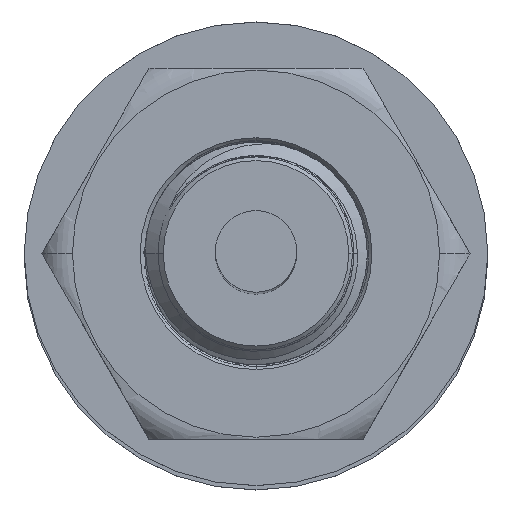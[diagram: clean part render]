
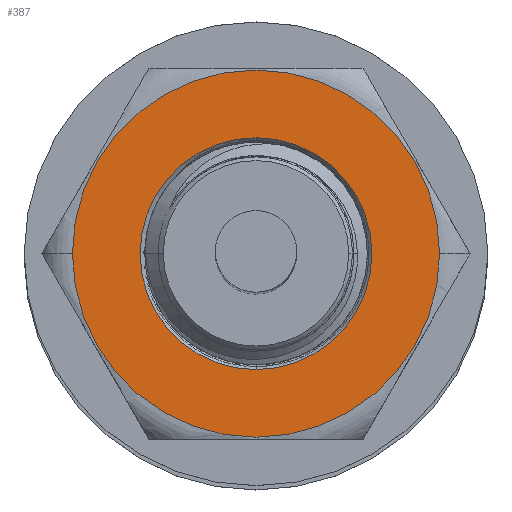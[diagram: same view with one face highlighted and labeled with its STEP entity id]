
A CAD part, top view. The second image highlights one B-rep face of the part: STEP entity #387.
In plain terms, the highlighted planar face has unit normal (0, 0, 1) as drawn and (0, 1, 0) by its records, which use the part's own axes.
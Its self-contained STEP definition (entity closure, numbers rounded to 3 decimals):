
#386 = DIRECTION ( 'NONE',  ( 1., 0., 0. ) ) ;
#387 = ADVANCED_FACE ( 'NONE', ( #5906, #15443 ), #7969, .T. ) ;
#1014 = ORIENTED_EDGE ( 'NONE', *, *, #2346, .F. ) ;
#1169 = DIRECTION ( 'NONE',  ( 0., 0., 1. ) ) ;
#1225 = CIRCLE ( 'NONE', #13662, 3.125 ) ;
#2173 = DIRECTION ( 'NONE',  ( 0., 0., 1. ) ) ;
#2346 = EDGE_CURVE ( 'NONE', #6282, #6960, #15671, .T. ) ;
#2758 = VERTEX_POINT ( 'NONE', #9671 ) ;
#2976 = AXIS2_PLACEMENT_3D ( 'NONE', #6274, #11128, #386 ) ;
#3330 = CARTESIAN_POINT ( 'NONE',  ( 0., 2.5, 0. ) ) ;
#3431 = CARTESIAN_POINT ( 'NONE',  ( 0., 2.5, 0. ) ) ;
#4272 = AXIS2_PLACEMENT_3D ( 'NONE', #6433, #11282, #10085 ) ;
#4302 = EDGE_CURVE ( 'NONE', #10146, #2758, #1225, .T. ) ;
#4819 = EDGE_LOOP ( 'NONE', ( #15310, #7580 ) ) ;
#5488 = CARTESIAN_POINT ( 'NONE',  ( -4.95, 2.5, 0. ) ) ;
#5612 = DIRECTION ( 'NONE',  ( 0., -1., 0. ) ) ;
#5762 = CARTESIAN_POINT ( 'NONE',  ( 0., 2.5, 0. ) ) ;
#5906 = FACE_BOUND ( 'NONE', #4819, .T. ) ;
#6274 = CARTESIAN_POINT ( 'NONE',  ( 0., 2.5, 0. ) ) ;
#6282 = VERTEX_POINT ( 'NONE', #5488 ) ;
#6433 = CARTESIAN_POINT ( 'NONE',  ( 0., 2.5, 0. ) ) ;
#6960 = VERTEX_POINT ( 'NONE', #7120 ) ;
#7120 = CARTESIAN_POINT ( 'NONE',  ( 4.95, 2.5, 0. ) ) ;
#7251 = AXIS2_PLACEMENT_3D ( 'NONE', #3431, #11635, #13153 ) ;
#7505 = EDGE_CURVE ( 'NONE', #6960, #6282, #8310, .T. ) ;
#7580 = ORIENTED_EDGE ( 'NONE', *, *, #10378, .T. ) ;
#7969 = PLANE ( 'NONE',  #7251 ) ;
#8310 = CIRCLE ( 'NONE', #2976, 4.95 ) ;
#8825 = CIRCLE ( 'NONE', #13396, 3.125 ) ;
#9662 = CARTESIAN_POINT ( 'NONE',  ( 0., 2.5, 3.125 ) ) ;
#9671 = CARTESIAN_POINT ( 'NONE',  ( 0., 2.5, -3.125 ) ) ;
#10085 = DIRECTION ( 'NONE',  ( 1., 0., 0. ) ) ;
#10146 = VERTEX_POINT ( 'NONE', #9662 ) ;
#10378 = EDGE_CURVE ( 'NONE', #2758, #10146, #8825, .T. ) ;
#11128 = DIRECTION ( 'NONE',  ( 0., -1., 0. ) ) ;
#11282 = DIRECTION ( 'NONE',  ( 0., -1., 0. ) ) ;
#11635 = DIRECTION ( 'NONE',  ( 0., 1., 0. ) ) ;
#12046 = DIRECTION ( 'NONE',  ( 0., -1., 0. ) ) ;
#13153 = DIRECTION ( 'NONE',  ( 0., 0., 1. ) ) ;
#13396 = AXIS2_PLACEMENT_3D ( 'NONE', #5762, #5612, #2173 ) ;
#13662 = AXIS2_PLACEMENT_3D ( 'NONE', #3330, #12046, #1169 ) ;
#14450 = ORIENTED_EDGE ( 'NONE', *, *, #7505, .F. ) ;
#14509 = EDGE_LOOP ( 'NONE', ( #14450, #1014 ) ) ;
#15310 = ORIENTED_EDGE ( 'NONE', *, *, #4302, .T. ) ;
#15443 = FACE_OUTER_BOUND ( 'NONE', #14509, .T. ) ;
#15671 = CIRCLE ( 'NONE', #4272, 4.95 ) ;
